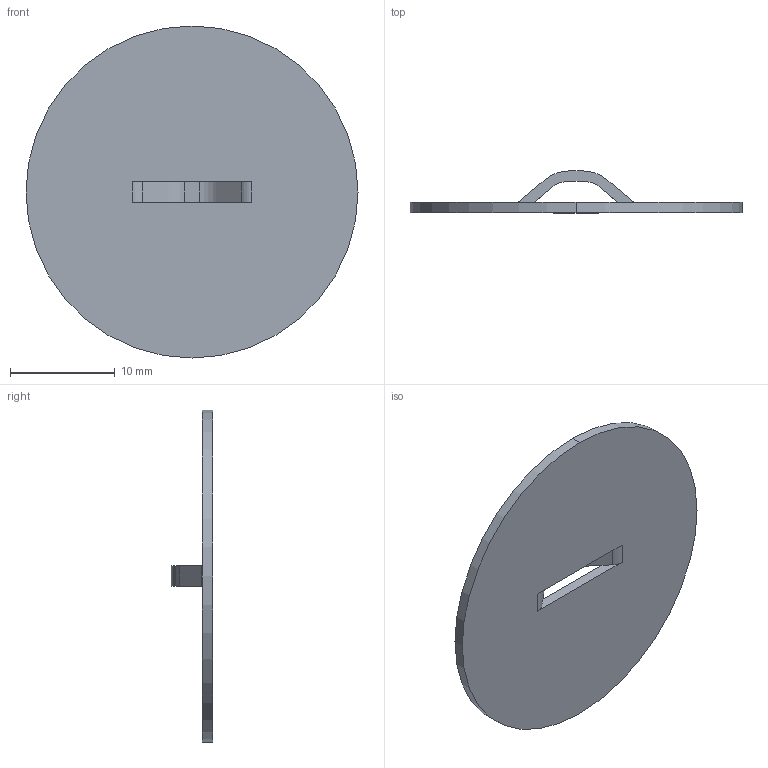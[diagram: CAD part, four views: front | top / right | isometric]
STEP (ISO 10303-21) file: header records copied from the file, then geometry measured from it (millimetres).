
FILE_DESCRIPTION (( 'STEP AP203' ), '1' );
FILE_NAME ('1524259-20 - BRIDGE LANCE SGL .079W X .118H X .039THK.STEP', '2024-11-18T17:17:53', ( '' ), ( '' ), 'SwSTEP 2.0', 'SolidWorks 2024', '' );
FILE_SCHEMA (( 'CONFIG_CONTROL_DESIGN' ));
Length unit declared in the file: inch
Products named in the file (1): 1524259-20 - BRIDGE LANCE SGL .079W X .118H X .039THK
Bounding box: 31.75 x 3.99 x 31.75 mm (x, y, z)
Volume: 788.1 mm3; surface area: 1730.6 mm2
Topology: 1 solids, 1 shells, 22 faces, 62 edges, 40 vertices
Faces by surface type: plane 12, cylinder 10
Entity records: 801 total; most frequent: DIRECTION 128, CARTESIAN_POINT 125, ORIENTED_EDGE 124, EDGE_CURVE 62, AXIS2_PLACEMENT_3D 43, VECTOR 42, LINE 42, VERTEX_POINT 40
